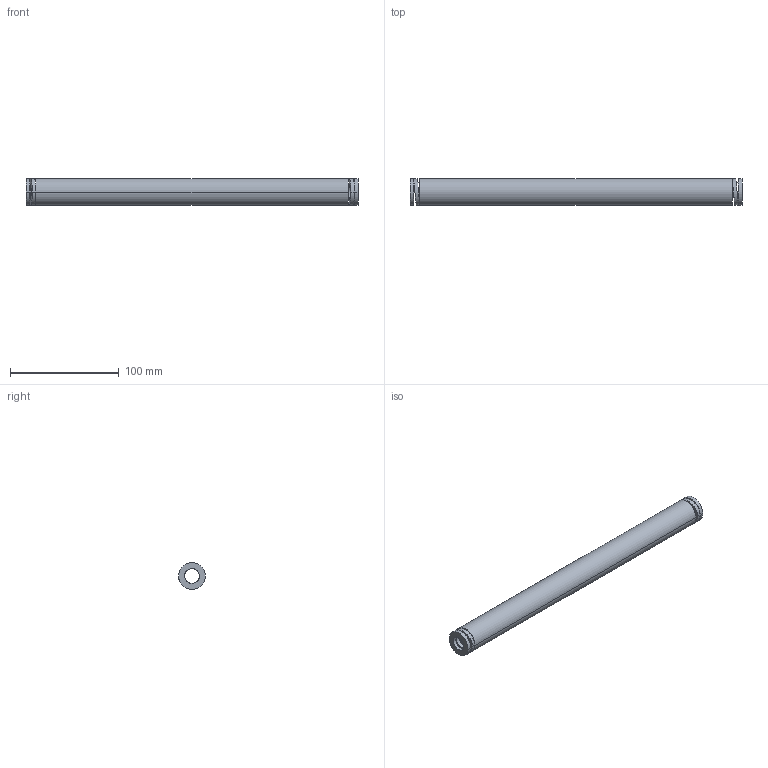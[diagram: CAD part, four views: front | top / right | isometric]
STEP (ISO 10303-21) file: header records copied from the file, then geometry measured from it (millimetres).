
FILE_DESCRIPTION(('CATIA V5 STEP Exchange'),'2;1');
FILE_NAME('C:\Users\Utente\Desktop\IO LAVORO\3D X SITO CF\X SITO\3D files 392B\392-B25-305.stp','2021-08-13T08:07:40+00:00',('none'),('none'),'CATIA Version 5 Release 20 GA (IN-10)','CATIA V5 STEP AP203','none');
FILE_SCHEMA(('CONFIG_CONTROL_DESIGN'));
Length unit declared in the file: millimetre
Products named in the file (1): 392-B25-305
Bounding box: 305 x 24.7 x 24.5 mm (x, y, z)
Volume: 97242.7 mm3; surface area: 39259 mm2
Topology: 1 solids, 1 shells, 38 faces, 92 edges, 64 vertices
Faces by surface type: cylinder 28, plane 10
Entity records: 1602 total; most frequent: CARTESIAN_POINT 719, ORIENTED_EDGE 184, DIRECTION 126, EDGE_CURVE 92, VERTEX_POINT 64, AXIS2_PLACEMENT_3D 61, EDGE_LOOP 56, B_SPLINE_CURVE_WITH_KNOTS 42
